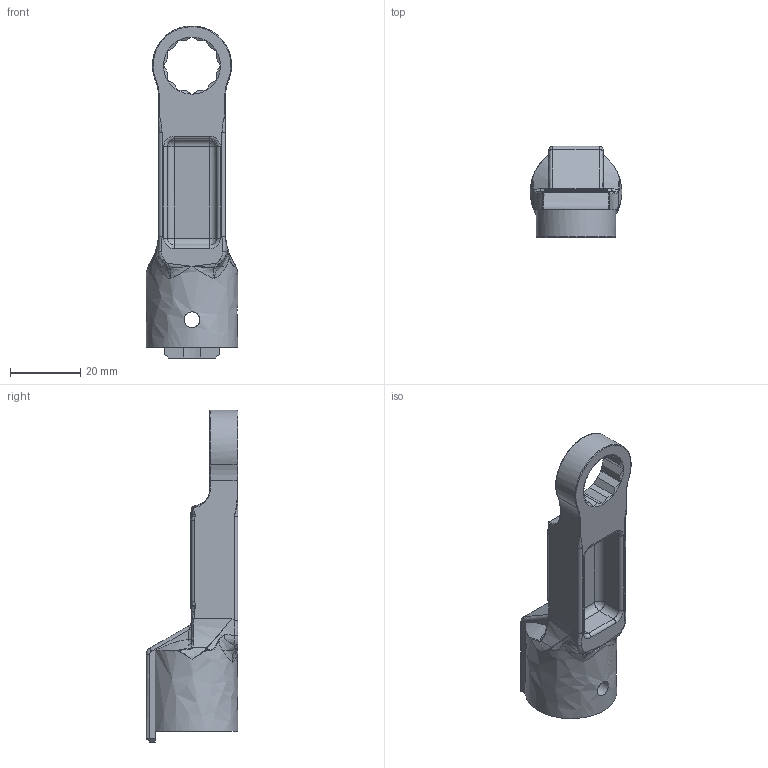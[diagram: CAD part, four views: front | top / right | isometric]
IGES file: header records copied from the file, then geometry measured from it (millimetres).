
Global section: file name: RH19DX14; native system: Autodesk Inventor 2016; preprocessor: unknown; author: q543; date: 20151110.164238; units: millimetre
Bounding box: 26 x 26 x 94.23 mm (x, y, z)
Volume: 16523.8 mm3; surface area: 8995.2 mm2
Topology: 1 solids, 1 shells, 225 faces, 566 edges, 321 vertices
Faces by surface type: bspline 225
